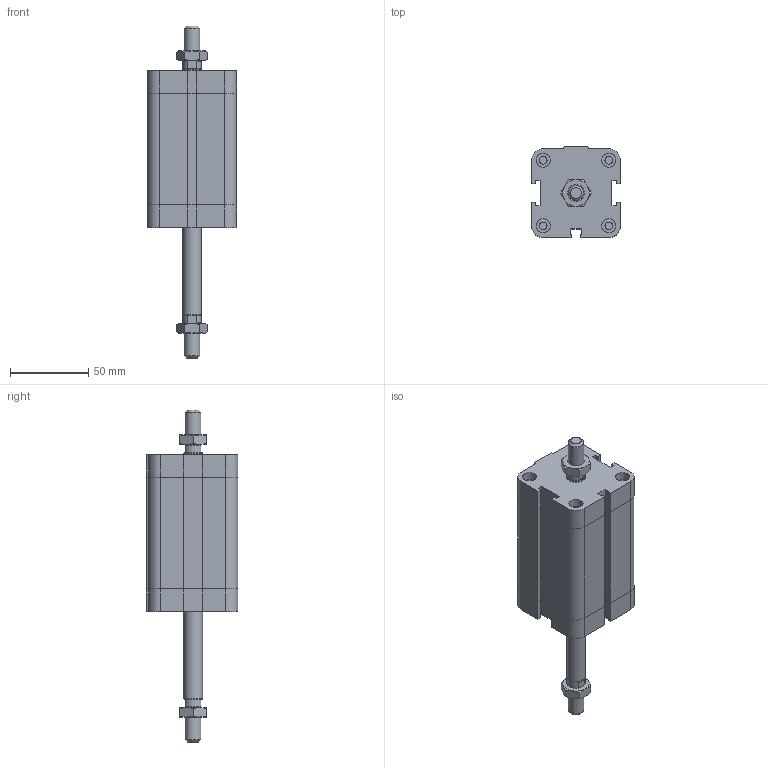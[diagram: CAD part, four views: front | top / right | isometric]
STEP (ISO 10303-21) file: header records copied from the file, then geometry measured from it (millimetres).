
FILE_DESCRIPTION((''),'2;1');
FILE_NAME('I:\Area Tecnica\Disegni\VARIE-3D\Componenti\EUROPE\15##_###_####_04_#\1581_40_0055_04_1.iam.stp','2009-04-20T14:51:43',(''),(''),'Autodesk Inventor 2009','Autodesk Inventor 2009','');
FILE_SCHEMA(('AUTOMOTIVE_DESIGN { 1 0 10303 214 1 1 1 1 }'));
Length unit declared in the file: millimetre
Products named in the file (4): 1581_40_0055_04_1; 1581_40_0055_03_1_C; 1561_40_0055_04_1_S; DBFM10
Assembly tree (4 placements, depth 2):
  1581_40_0055_04_1
    1581_40_0055_03_1_C
    1561_40_0055_04_1_S
    DBFM10  x2
Bounding box: 57 x 58.5 x 212.5 mm (x, y, z)
Volume: 312370.7 mm3; surface area: 49555 mm2
Topology: 4 solids, 4 shells, 222 faces, 483 edges, 289 vertices
Faces by surface type: plane 129, cone 35, bspline 33, cylinder 25
Full cylindrical faces by diameter (mm): 4.917 x4, 8.8 x1, 9 x4, 10 x1, 11.7 x2, 12 x1
Entity records: 5450 total; most frequent: CARTESIAN_POINT 1222, DIRECTION 802, ORIENTED_EDGE 772, EDGE_CURVE 386, AXIS2_PLACEMENT_3D 272, EDGE_LOOP 258, VECTOR 258, LINE 258
